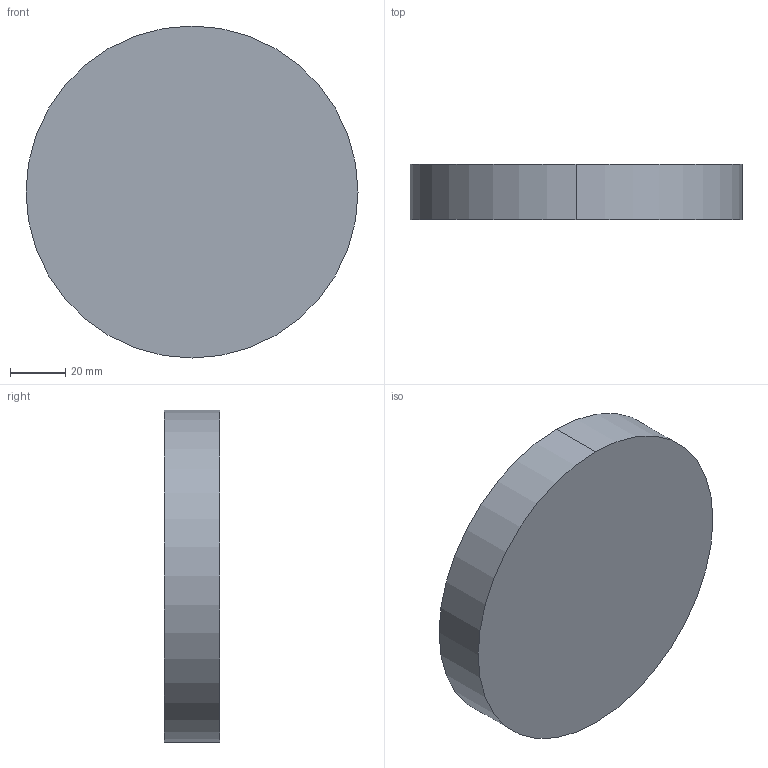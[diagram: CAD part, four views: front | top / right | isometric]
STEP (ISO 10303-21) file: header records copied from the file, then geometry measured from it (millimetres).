
FILE_DESCRIPTION (( 'STEP AP203' ), '1' );
FILE_NAME ('base support_Default_sldprt.STEP', '2025-01-16T15:44:51', ( '' ), ( '' ), 'SwSTEP 2.0', 'SolidWorks 2020', '' );
FILE_SCHEMA (( 'CONFIG_CONTROL_DESIGN' ));
Length unit declared in the file: millimetre
Products named in the file (1): base support_Default_sldprt
Bounding box: 120 x 20 x 120 mm (x, y, z)
Volume: 150796.4 mm3; surface area: 33929.2 mm2
Topology: 1 solids, 1 shells, 7 faces, 12 edges, 8 vertices
Faces by surface type: cylinder 4, plane 3
Entity records: 251 total; most frequent: DIRECTION 36, CARTESIAN_POINT 28, ORIENTED_EDGE 24, AXIS2_PLACEMENT_3D 16, EDGE_CURVE 12, EDGE_LOOP 8, PERSON_AND_ORGANIZATION 8, VERTEX_POINT 8
